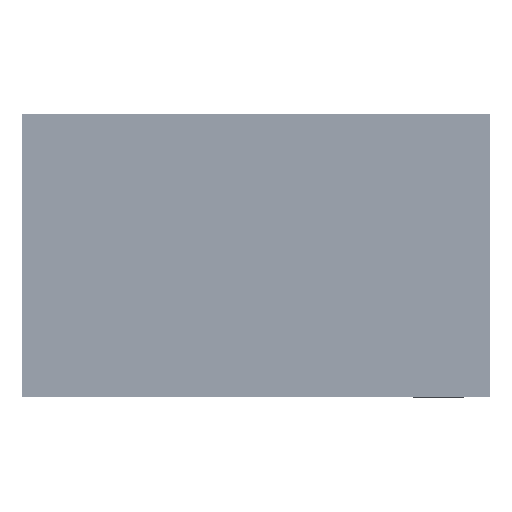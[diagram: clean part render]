
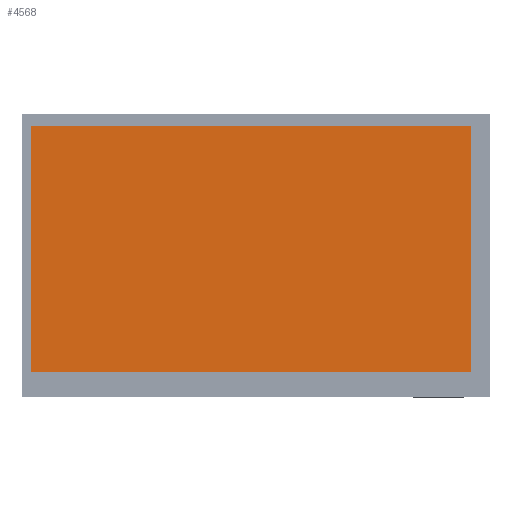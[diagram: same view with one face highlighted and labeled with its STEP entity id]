
A CAD part, top view. The second image highlights one B-rep face of the part: STEP entity #4568.
In plain terms, the highlighted planar face has unit normal (0, 0, 1).
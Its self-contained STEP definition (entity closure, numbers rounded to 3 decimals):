
#2739=DIRECTION('',(1.,0.,0.));
#2740=VECTOR('',#2739,154.58);
#2741=CARTESIAN_POINT('',(-77.29,43.21,1.75));
#2742=LINE('',#2741,#2740);
#2753=DIRECTION('',(0.,-1.,0.));
#2754=VECTOR('',#2753,86.42);
#2755=CARTESIAN_POINT('',(77.29,43.21,1.75));
#2756=LINE('',#2755,#2754);
#2767=DIRECTION('',(-1.,0.,0.));
#2768=VECTOR('',#2767,154.58);
#2769=CARTESIAN_POINT('',(77.29,-43.21,1.75));
#2770=LINE('',#2769,#2768);
#2781=DIRECTION('',(0.,1.,0.));
#2782=VECTOR('',#2781,86.42);
#2783=CARTESIAN_POINT('',(-77.29,-43.21,1.75));
#2784=LINE('',#2783,#2782);
#3387=CARTESIAN_POINT('',(-77.29,43.21,1.75));
#3388=CARTESIAN_POINT('',(77.29,43.21,1.75));
#3389=VERTEX_POINT('',#3387);
#3390=VERTEX_POINT('',#3388);
#3391=CARTESIAN_POINT('',(77.29,-43.21,1.75));
#3392=VERTEX_POINT('',#3391);
#3393=CARTESIAN_POINT('',(-77.29,-43.21,1.75));
#3394=VERTEX_POINT('',#3393);
#4554=CARTESIAN_POINT('',(0.,0.,1.75));
#4555=DIRECTION('',(0.,0.,-1.));
#4556=DIRECTION('',(-1.,0.,0.));
#4557=AXIS2_PLACEMENT_3D('',#4554,#4555,#4556);
#4558=PLANE('',#4557);
#4559=ORIENTED_EDGE('',*,*,#4544,.T.);
#4561=ORIENTED_EDGE('',*,*,#4560,.T.);
#4563=ORIENTED_EDGE('',*,*,#4562,.T.);
#4565=ORIENTED_EDGE('',*,*,#4564,.T.);
#4566=EDGE_LOOP('',(#4559,#4561,#4563,#4565));
#4567=FACE_OUTER_BOUND('',#4566,.F.);
#4568=ADVANCED_FACE('',(#4567),#4558,.F.);
#4544=EDGE_CURVE('',#3389,#3390,#2742,.T.);
#4560=EDGE_CURVE('',#3390,#3392,#2756,.T.);
#4562=EDGE_CURVE('',#3392,#3394,#2770,.T.);
#4564=EDGE_CURVE('',#3394,#3389,#2784,.T.);
